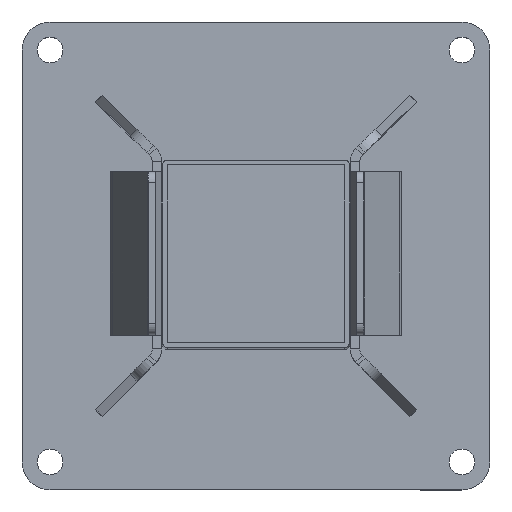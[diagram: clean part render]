
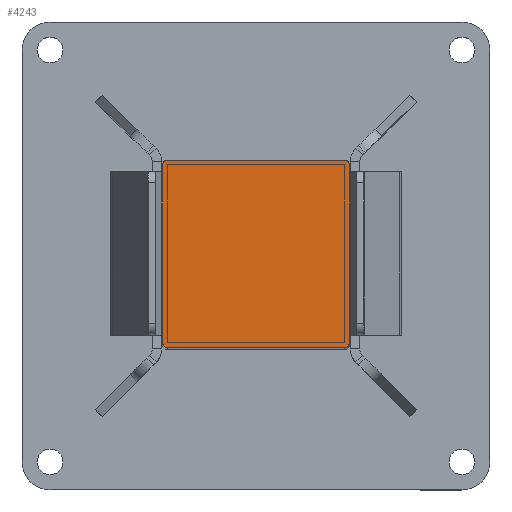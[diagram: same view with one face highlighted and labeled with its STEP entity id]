
A CAD part, top view. The second image highlights one B-rep face of the part: STEP entity #4243.
In plain terms, the highlighted planar face has unit normal (0, 0, 1).
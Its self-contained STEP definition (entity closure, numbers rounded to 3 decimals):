
#342=PLANE('',#4737);
#513=FACE_OUTER_BOUND('',#777,.T.);
#777=EDGE_LOOP('',(#3231,#3232,#3233,#3234,#3235,#3236,#3237,#3238));
#1084=LINE('',#6618,#1472);
#1090=LINE('',#6638,#1478);
#1093=LINE('',#6646,#1481);
#1095=LINE('',#6652,#1483);
#1472=VECTOR('',#5358,10.);
#1478=VECTOR('',#5378,10.);
#1481=VECTOR('',#5387,10.);
#1483=VECTOR('',#5395,10.);
#1836=CIRCLE('',#4721,2.);
#1841=CIRCLE('',#4729,2.);
#1842=CIRCLE('',#4732,2.);
#1843=CIRCLE('',#4735,2.);
#2037=VERTEX_POINT('',#6605);
#2038=VERTEX_POINT('',#6606);
#2042=VERTEX_POINT('',#6616);
#2048=VERTEX_POINT('',#6632);
#2049=VERTEX_POINT('',#6636);
#2050=VERTEX_POINT('',#6640);
#2051=VERTEX_POINT('',#6644);
#2052=VERTEX_POINT('',#6648);
#2466=EDGE_CURVE('',#2037,#2038,#1836,.T.);
#2472=EDGE_CURVE('',#2042,#2037,#1084,.T.);
#2479=EDGE_CURVE('',#2048,#2042,#1841,.T.);
#2482=EDGE_CURVE('',#2049,#2048,#1090,.T.);
#2483=EDGE_CURVE('',#2050,#2049,#1842,.T.);
#2486=EDGE_CURVE('',#2051,#2050,#1093,.T.);
#2487=EDGE_CURVE('',#2052,#2051,#1843,.T.);
#2489=EDGE_CURVE('',#2038,#2052,#1095,.T.);
#3231=ORIENTED_EDGE('',*,*,#2466,.F.);
#3232=ORIENTED_EDGE('',*,*,#2472,.F.);
#3233=ORIENTED_EDGE('',*,*,#2479,.F.);
#3234=ORIENTED_EDGE('',*,*,#2482,.F.);
#3235=ORIENTED_EDGE('',*,*,#2483,.F.);
#3236=ORIENTED_EDGE('',*,*,#2486,.F.);
#3237=ORIENTED_EDGE('',*,*,#2487,.F.);
#3238=ORIENTED_EDGE('',*,*,#2489,.F.);
#4243=ADVANCED_FACE('',(#513),#342,.T.);
#4721=AXIS2_PLACEMENT_3D('',#6607,#5348,#5349);
#4729=AXIS2_PLACEMENT_3D('',#6633,#5372,#5373);
#4732=AXIS2_PLACEMENT_3D('',#6641,#5381,#5382);
#4735=AXIS2_PLACEMENT_3D('',#6649,#5390,#5391);
#4737=AXIS2_PLACEMENT_3D('',#6653,#5396,#5397);
#5348=DIRECTION('center_axis',(0.,0.,-1.));
#5349=DIRECTION('ref_axis',(0.707,0.707,0.));
#5358=DIRECTION('',(1.,0.,0.));
#5372=DIRECTION('center_axis',(0.,0.,-1.));
#5373=DIRECTION('ref_axis',(-0.707,0.707,0.));
#5378=DIRECTION('',(0.,1.,0.));
#5381=DIRECTION('center_axis',(0.,0.,-1.));
#5382=DIRECTION('ref_axis',(-0.707,-0.707,0.));
#5387=DIRECTION('',(-1.,0.,0.));
#5390=DIRECTION('center_axis',(0.,0.,-1.));
#5391=DIRECTION('ref_axis',(0.707,-0.707,0.));
#5395=DIRECTION('',(0.,-1.,0.));
#5396=DIRECTION('center_axis',(0.,0.,1.));
#5397=DIRECTION('ref_axis',(1.,0.,0.));
#6605=CARTESIAN_POINT('',(-2.,80.,500.));
#6606=CARTESIAN_POINT('',(0.,78.,500.));
#6607=CARTESIAN_POINT('Origin',(-2.,78.,500.));
#6616=CARTESIAN_POINT('',(-78.,80.,500.));
#6618=CARTESIAN_POINT('',(-80.,80.,500.));
#6632=CARTESIAN_POINT('',(-80.,78.,500.));
#6633=CARTESIAN_POINT('Origin',(-78.,78.,500.));
#6636=CARTESIAN_POINT('',(-80.,2.,500.));
#6638=CARTESIAN_POINT('',(-80.,0.,500.));
#6640=CARTESIAN_POINT('',(-78.,0.,500.));
#6641=CARTESIAN_POINT('Origin',(-78.,2.,500.));
#6644=CARTESIAN_POINT('',(-2.,0.,500.));
#6646=CARTESIAN_POINT('',(0.,0.,500.));
#6648=CARTESIAN_POINT('',(0.,2.,500.));
#6649=CARTESIAN_POINT('Origin',(-2.,2.,500.));
#6652=CARTESIAN_POINT('',(0.,80.,500.));
#6653=CARTESIAN_POINT('Origin',(-40.,40.,500.));
